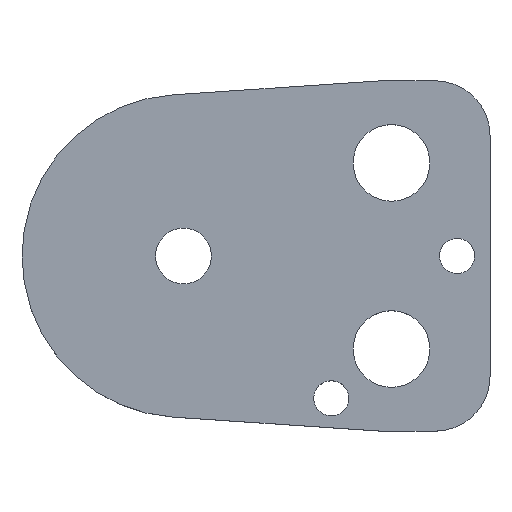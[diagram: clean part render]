
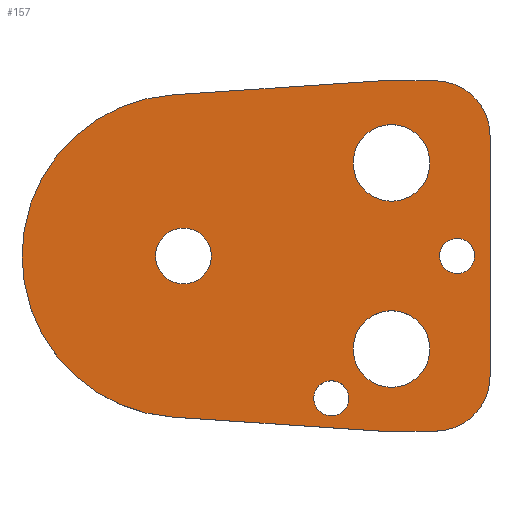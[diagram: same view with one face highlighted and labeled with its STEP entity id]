
A CAD part, top view. The second image highlights one B-rep face of the part: STEP entity #157.
In plain terms, the highlighted planar face has unit normal (0, 0, 1).
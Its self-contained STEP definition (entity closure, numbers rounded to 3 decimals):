
#103=FACE_BOUND('',#207,.T.);
#104=FACE_BOUND('',#208,.T.);
#105=FACE_BOUND('',#209,.T.);
#106=FACE_BOUND('',#210,.T.);
#107=FACE_BOUND('',#211,.T.);
#108=FACE_BOUND('',#212,.T.);
#122=CIRCLE('',#480,10.);
#124=CIRCLE('',#484,10.);
#127=CIRCLE('',#490,29.5);
#138=CIRCLE('',#503,3.2);
#139=CIRCLE('',#504,3.2);
#140=CIRCLE('',#505,7.);
#141=CIRCLE('',#506,7.);
#142=CIRCLE('',#507,7.);
#143=CIRCLE('',#508,7.);
#144=CIRCLE('',#509,3.2);
#145=CIRCLE('',#510,3.2);
#146=CIRCLE('',#511,5.1);
#147=CIRCLE('',#512,5.1);
#157=ADVANCED_FACE('',(#103,#104,#105,#106,#107,#108),#174,.T.);
#174=PLANE('',#513);
#207=EDGE_LOOP('',(#273,#274,#275,#276,#277,#278,#279,#280));
#208=EDGE_LOOP('',(#281,#282));
#209=EDGE_LOOP('',(#283,#284));
#210=EDGE_LOOP('',(#285,#286));
#211=EDGE_LOOP('',(#287,#288));
#212=EDGE_LOOP('',(#289,#290));
#273=ORIENTED_EDGE('',*,*,#368,.T.);
#274=ORIENTED_EDGE('',*,*,#372,.T.);
#275=ORIENTED_EDGE('',*,*,#375,.T.);
#276=ORIENTED_EDGE('',*,*,#378,.T.);
#277=ORIENTED_EDGE('',*,*,#381,.T.);
#278=ORIENTED_EDGE('',*,*,#384,.T.);
#279=ORIENTED_EDGE('',*,*,#387,.T.);
#280=ORIENTED_EDGE('',*,*,#390,.T.);
#281=ORIENTED_EDGE('',*,*,#401,.T.);
#282=ORIENTED_EDGE('',*,*,#402,.T.);
#283=ORIENTED_EDGE('',*,*,#403,.T.);
#284=ORIENTED_EDGE('',*,*,#404,.T.);
#285=ORIENTED_EDGE('',*,*,#405,.T.);
#286=ORIENTED_EDGE('',*,*,#406,.T.);
#287=ORIENTED_EDGE('',*,*,#407,.T.);
#288=ORIENTED_EDGE('',*,*,#408,.T.);
#289=ORIENTED_EDGE('',*,*,#409,.T.);
#290=ORIENTED_EDGE('',*,*,#410,.T.);
#332=VERTEX_POINT('',#649);
#333=VERTEX_POINT('',#651);
#336=VERTEX_POINT('',#658);
#338=VERTEX_POINT('',#664);
#340=VERTEX_POINT('',#670);
#342=VERTEX_POINT('',#676);
#344=VERTEX_POINT('',#682);
#346=VERTEX_POINT('',#688);
#357=VERTEX_POINT('',#717);
#358=VERTEX_POINT('',#718);
#359=VERTEX_POINT('',#721);
#360=VERTEX_POINT('',#722);
#361=VERTEX_POINT('',#725);
#362=VERTEX_POINT('',#726);
#363=VERTEX_POINT('',#729);
#364=VERTEX_POINT('',#730);
#365=VERTEX_POINT('',#733);
#366=VERTEX_POINT('',#734);
#368=EDGE_CURVE('',#333,#332,#422,.T.);
#372=EDGE_CURVE('',#332,#336,#426,.T.);
#375=EDGE_CURVE('',#336,#338,#122,.T.);
#378=EDGE_CURVE('',#338,#340,#430,.T.);
#381=EDGE_CURVE('',#340,#342,#124,.T.);
#384=EDGE_CURVE('',#342,#344,#434,.T.);
#387=EDGE_CURVE('',#344,#346,#437,.T.);
#390=EDGE_CURVE('',#346,#333,#127,.T.);
#401=EDGE_CURVE('',#357,#358,#138,.T.);
#402=EDGE_CURVE('',#358,#357,#139,.T.);
#403=EDGE_CURVE('',#359,#360,#140,.T.);
#404=EDGE_CURVE('',#360,#359,#141,.T.);
#405=EDGE_CURVE('',#361,#362,#142,.T.);
#406=EDGE_CURVE('',#362,#361,#143,.T.);
#407=EDGE_CURVE('',#363,#364,#144,.T.);
#408=EDGE_CURVE('',#364,#363,#145,.T.);
#409=EDGE_CURVE('',#365,#366,#146,.T.);
#410=EDGE_CURVE('',#366,#365,#147,.T.);
#422=LINE('',#650,#450);
#426=LINE('',#659,#454);
#430=LINE('',#671,#458);
#434=LINE('',#683,#462);
#437=LINE('',#689,#465);
#450=VECTOR('',#527,1.);
#454=VECTOR('',#533,1.);
#458=VECTOR('',#545,1.);
#462=VECTOR('',#557,1.);
#465=VECTOR('',#562,1.);
#480=AXIS2_PLACEMENT_3D('',#665,#538,#539);
#484=AXIS2_PLACEMENT_3D('',#677,#550,#551);
#490=AXIS2_PLACEMENT_3D('',#693,#568,#569);
#503=AXIS2_PLACEMENT_3D('',#716,#594,#595);
#504=AXIS2_PLACEMENT_3D('',#719,#596,#597);
#505=AXIS2_PLACEMENT_3D('',#720,#598,#599);
#506=AXIS2_PLACEMENT_3D('',#723,#600,#601);
#507=AXIS2_PLACEMENT_3D('',#724,#602,#603);
#508=AXIS2_PLACEMENT_3D('',#727,#604,#605);
#509=AXIS2_PLACEMENT_3D('',#728,#606,#607);
#510=AXIS2_PLACEMENT_3D('',#731,#608,#609);
#511=AXIS2_PLACEMENT_3D('',#732,#610,#611);
#512=AXIS2_PLACEMENT_3D('',#735,#612,#613);
#513=AXIS2_PLACEMENT_3D('',#736,#614,#615);
#527=DIRECTION('',(0.998,-0.067,0.));
#533=DIRECTION('',(1.,0.,0.));
#538=DIRECTION('',(0.,0.,1.));
#539=DIRECTION('',(-0.707,0.707,0.));
#545=DIRECTION('',(0.,1.,0.));
#550=DIRECTION('',(0.,0.,1.));
#551=DIRECTION('',(-0.707,-0.707,0.));
#557=DIRECTION('',(-1.,0.,0.));
#562=DIRECTION('',(-0.998,-0.067,0.));
#568=DIRECTION('',(0.,0.,1.));
#569=DIRECTION('',(1.,0.,0.));
#594=DIRECTION('',(0.,0.,-1.));
#595=DIRECTION('',(-1.,0.,0.));
#596=DIRECTION('',(0.,0.,-1.));
#597=DIRECTION('',(1.,0.,0.));
#598=DIRECTION('',(0.,0.,-1.));
#599=DIRECTION('',(-1.,0.,0.));
#600=DIRECTION('',(0.,0.,-1.));
#601=DIRECTION('',(1.,0.,0.));
#602=DIRECTION('',(0.,0.,-1.));
#603=DIRECTION('',(-1.,0.,0.));
#604=DIRECTION('',(0.,0.,-1.));
#605=DIRECTION('',(1.,0.,0.));
#606=DIRECTION('',(0.,0.,-1.));
#607=DIRECTION('',(-1.,0.,0.));
#608=DIRECTION('',(0.,0.,-1.));
#609=DIRECTION('',(1.,0.,0.));
#610=DIRECTION('',(0.,0.,-1.));
#611=DIRECTION('',(-1.,0.,0.));
#612=DIRECTION('',(0.,0.,-1.));
#613=DIRECTION('',(1.,0.,0.));
#614=DIRECTION('',(0.,0.,1.));
#615=DIRECTION('',(0.998,-0.067,0.));
#649=CARTESIAN_POINT('',(36.,-32.,7.));
#650=CARTESIAN_POINT('',(36.,-32.,7.));
#651=CARTESIAN_POINT('',(-1.989,-29.433,7.));
#658=CARTESIAN_POINT('',(46.,-32.,7.));
#659=CARTESIAN_POINT('',(36.,-32.,7.));
#664=CARTESIAN_POINT('',(56.,-22.,7.));
#665=CARTESIAN_POINT('',(46.,-22.,7.));
#670=CARTESIAN_POINT('',(56.,22.,7.));
#671=CARTESIAN_POINT('',(56.,22.,7.));
#676=CARTESIAN_POINT('',(46.,32.,7.));
#677=CARTESIAN_POINT('',(46.,22.,7.));
#682=CARTESIAN_POINT('',(36.,32.,7.));
#683=CARTESIAN_POINT('',(36.,32.,7.));
#688=CARTESIAN_POINT('',(-1.989,29.433,7.));
#689=CARTESIAN_POINT('',(36.,32.,7.));
#693=CARTESIAN_POINT('',(0.,0.,7.));
#716=CARTESIAN_POINT('',(50.,0.,7.));
#717=CARTESIAN_POINT('',(50.,3.2,7.));
#718=CARTESIAN_POINT('',(50.,-3.2,7.));
#719=CARTESIAN_POINT('',(50.,0.,7.));
#720=CARTESIAN_POINT('',(38.,17.,7.));
#721=CARTESIAN_POINT('',(38.,24.,7.));
#722=CARTESIAN_POINT('',(38.,10.,7.));
#723=CARTESIAN_POINT('',(38.,17.,7.));
#724=CARTESIAN_POINT('',(38.,-17.,7.));
#725=CARTESIAN_POINT('',(38.,-10.,7.));
#726=CARTESIAN_POINT('',(38.,-24.,7.));
#727=CARTESIAN_POINT('',(38.,-17.,7.));
#728=CARTESIAN_POINT('',(27.,-26.,7.));
#729=CARTESIAN_POINT('',(27.,-22.8,7.));
#730=CARTESIAN_POINT('',(27.,-29.2,7.));
#731=CARTESIAN_POINT('',(27.,-26.,7.));
#732=CARTESIAN_POINT('',(0.,0.,7.));
#733=CARTESIAN_POINT('',(0.,5.1,7.));
#734=CARTESIAN_POINT('',(0.,-5.1,7.));
#735=CARTESIAN_POINT('',(0.,0.,7.));
#736=CARTESIAN_POINT('',(-1.989,-29.433,7.));
